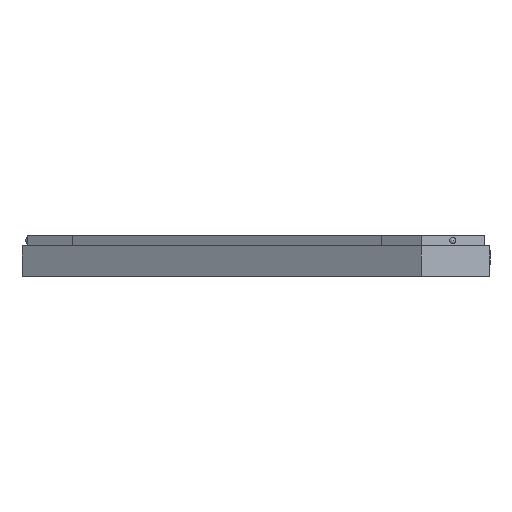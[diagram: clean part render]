
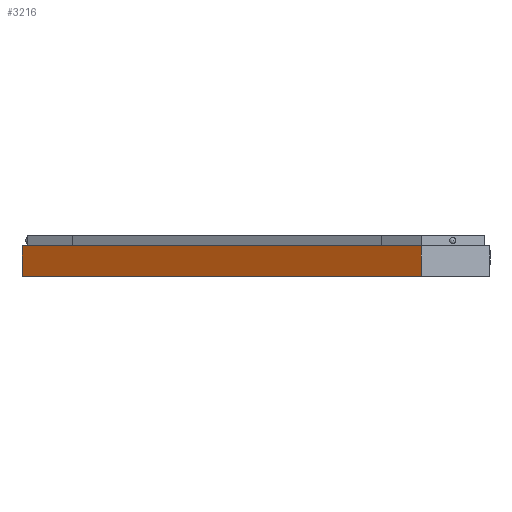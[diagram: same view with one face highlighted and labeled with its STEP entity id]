
A CAD part, left-side view. The second image highlights one B-rep face of the part: STEP entity #3216.
In plain terms, the highlighted planar face has unit normal (-0.866, 0.5, 0).
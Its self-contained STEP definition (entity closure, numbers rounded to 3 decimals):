
#198=PLANE('',#3515);
#366=FACE_OUTER_BOUND('',#592,.T.);
#592=EDGE_LOOP('',(#2935,#2936,#2937,#2938));
#905=LINE('',#5595,#1229);
#906=LINE('',#5597,#1230);
#907=LINE('',#5599,#1231);
#908=LINE('',#5600,#1232);
#1229=VECTOR('',#4358,10.);
#1230=VECTOR('',#4359,10.);
#1231=VECTOR('',#4360,10.);
#1232=VECTOR('',#4361,10.);
#1670=VERTEX_POINT('',#5593);
#1671=VERTEX_POINT('',#5594);
#1672=VERTEX_POINT('',#5596);
#1673=VERTEX_POINT('',#5598);
#2102=EDGE_CURVE('',#1670,#1671,#905,.T.);
#2103=EDGE_CURVE('',#1672,#1671,#906,.T.);
#2104=EDGE_CURVE('',#1672,#1673,#907,.T.);
#2105=EDGE_CURVE('',#1673,#1670,#908,.F.);
#2935=ORIENTED_EDGE('',*,*,#2102,.T.);
#2936=ORIENTED_EDGE('',*,*,#2103,.F.);
#2937=ORIENTED_EDGE('',*,*,#2104,.T.);
#2938=ORIENTED_EDGE('',*,*,#2105,.T.);
#3216=ADVANCED_FACE('',(#366),#198,.T.);
#3515=AXIS2_PLACEMENT_3D('',#5592,#4356,#4357);
#4356=DIRECTION('center_axis',(-0.866,0.5,0.));
#4357=DIRECTION('ref_axis',(-0.5,-0.866,0.));
#4358=DIRECTION('',(0.5,0.866,0.));
#4359=DIRECTION('',(0.,0.,1.));
#4360=DIRECTION('',(-0.5,-0.866,0.));
#4361=DIRECTION('',(0.,0.,-1.));
#5592=CARTESIAN_POINT('Origin',(-345.774,145.885,0.));
#5593=CARTESIAN_POINT('',(-418.453,20.,9.));
#5594=CARTESIAN_POINT('',(-351.547,135.885,9.));
#5595=CARTESIAN_POINT('',(-361.927,117.906,9.));
#5596=CARTESIAN_POINT('',(-351.547,135.885,0.));
#5597=CARTESIAN_POINT('',(-351.547,135.885,0.));
#5598=CARTESIAN_POINT('',(-418.453,20.,0.));
#5599=CARTESIAN_POINT('',(-340.,155.885,0.));
#5600=CARTESIAN_POINT('',(-418.453,20.,0.));
